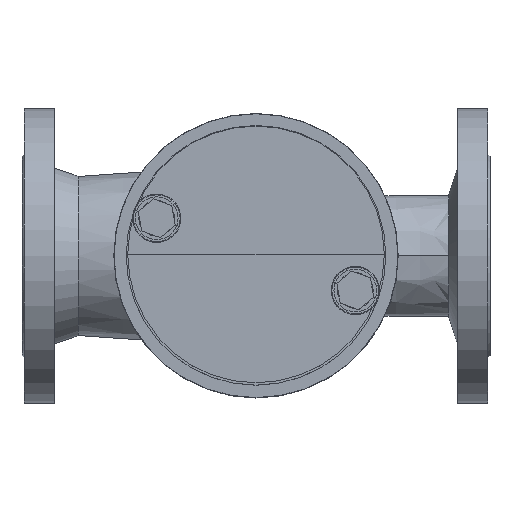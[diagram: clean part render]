
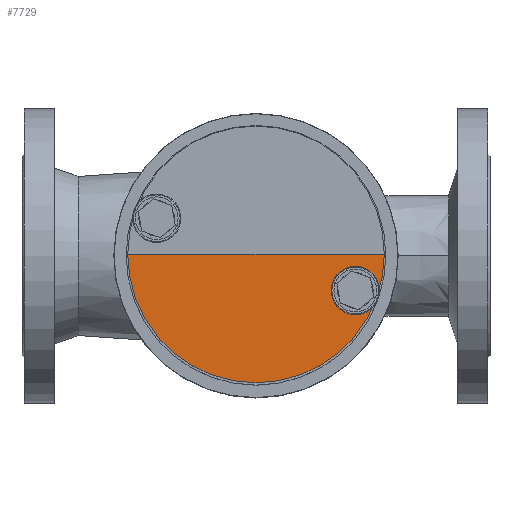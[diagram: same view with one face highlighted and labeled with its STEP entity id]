
A CAD part, top view. The second image highlights one B-rep face of the part: STEP entity #7729.
In plain terms, the highlighted planar face has unit normal (0, 0, 1).
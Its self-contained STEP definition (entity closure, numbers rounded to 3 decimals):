
#542=LINE('',#14352,#923);
#923=VECTOR('',#10383,304.8);
#1583=FACE_OUTER_BOUND('',#2141,.T.);
#2141=EDGE_LOOP('',(#5809,#5810));
#2756=CIRCLE('',#8582,84.997);
#3347=VERTEX_POINT('',#14335);
#3348=VERTEX_POINT('',#14337);
#4169=EDGE_CURVE('',#3348,#3347,#2756,.T.);
#4174=EDGE_CURVE('',#3347,#3348,#542,.T.);
#5809=ORIENTED_EDGE('',*,*,#4169,.F.);
#5810=ORIENTED_EDGE('',*,*,#4174,.F.);
#6843=PLANE('',#8588);
#7729=ADVANCED_FACE('',(#1583),#6843,.F.);
#8582=AXIS2_PLACEMENT_3D('',#14342,#10369,#10370);
#8588=AXIS2_PLACEMENT_3D('',#14353,#10384,#10385);
#10369=DIRECTION('center_axis',(0.,0.,-1.));
#10370=DIRECTION('ref_axis',(-1.,0.,0.));
#10383=DIRECTION('',(1.,0.,0.));
#10384=DIRECTION('center_axis',(0.,0.,-1.));
#10385=DIRECTION('ref_axis',(-1.,0.,0.));
#14335=CARTESIAN_POINT('',(-84.997,0.,479.305));
#14337=CARTESIAN_POINT('',(84.997,0.,479.305));
#14342=CARTESIAN_POINT('Origin',(0.,0.,479.305));
#14352=CARTESIAN_POINT('',(-84.997,0.,479.305));
#14353=CARTESIAN_POINT('Origin',(0.,0.,479.305));
